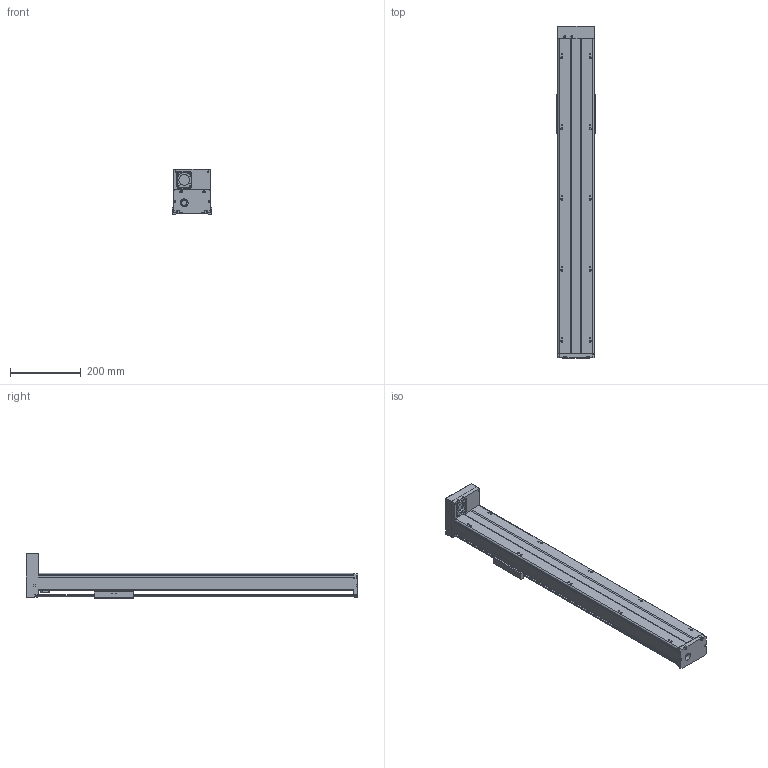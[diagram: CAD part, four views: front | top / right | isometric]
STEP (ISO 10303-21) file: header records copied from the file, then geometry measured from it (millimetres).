
FILE_DESCRIPTION(/* description */ (''),/* implementation_level */ '2;1');
FILE_NAME(/* name */ 'TKA100-FD-700_asm1.stp',/* time_stamp */ '2016-05-16T15:26:00+08:00',/* author */ (''),/* organization */ (''),/* preprocessor_version */ 'ST-DEVELOPER v15',/* originating_system */ 'SIEMENS PLM Software NX 8.5',/* authorisation */ '');
FILE_SCHEMA (('AUTOMOTIVE_DESIGN { 1 0 10303 214 3 1 1 1 }'));
Length unit declared in the file: millimetre
Products named in the file (3): 200-02; 200-01; TKA100-FD-700_asm1
Assembly tree (2 placements, depth 2):
  TKA100-FD-700_asm1
    200-01
    200-02
Bounding box: 110 x 936 x 127 mm (x, y, z)
Volume: 2016277.7 mm3; surface area: 701060.2 mm2
Topology: 2 solids, 11 shells, 786 faces, 2034 edges, 1320 vertices
Faces by surface type: cylinder 304, plane 296, cone 122, torus 38, bspline 26
Full cylindrical faces by diameter (mm): 2.5 x6, 2.6 x8, 3.3 x10, 3.4 x9, 3.8 x8, 4.2 x19, 4.3 x4, 4.5 x8, 5 x1, 5.5 x20, 6.6 x4, 8 x5, 9 x4, 10 x12, 11 x4, 12 x7, 15.3 x1, 16 x1, 22 x1, 24 x1, 28 x4, 30 x1, 33 x1
Entity records: 28212 total; most frequent: CARTESIAN_POINT 10011, DIRECTION 3798, ORIENTED_EDGE 3454, EDGE_CURVE 1727, AXIS2_PLACEMENT_3D 1518, VERTEX_POINT 1236, EDGE_LOOP 1122, ADVANCED_FACE 786
